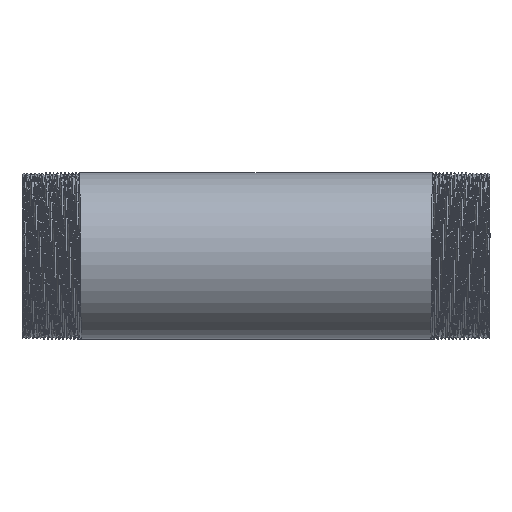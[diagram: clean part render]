
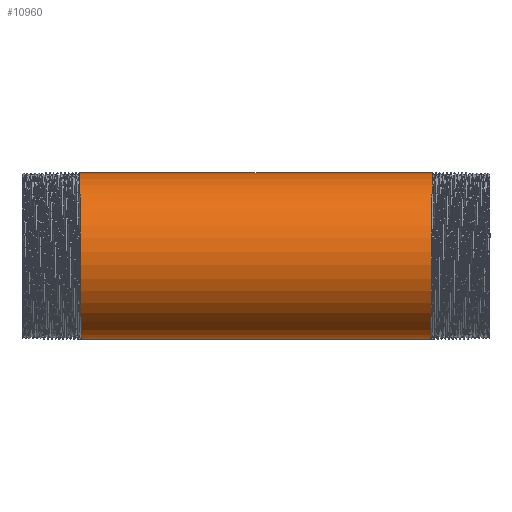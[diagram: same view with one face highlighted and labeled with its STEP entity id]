
A CAD part, front view. The second image highlights one B-rep face of the part: STEP entity #10960.
In plain terms, the highlighted cylindrical face has radius 44.45 mm (diameter 88.9 mm), a partial arc.
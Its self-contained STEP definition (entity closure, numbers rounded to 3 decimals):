
#87 = VERTEX_POINT ( 'NONE', #10110 ) ;
#517 =( BOUNDED_CURVE ( )  B_SPLINE_CURVE ( 2, ( #11140, #4610, #9711, #8379, #13741, #4936, #833, #4774, #10039, #15001, #16340 ),
 .UNSPECIFIED., .F., .F. ) 
 B_SPLINE_CURVE_WITH_KNOTS ( ( 3, 2, 2, 2, 2, 3 ),
 ( 0., 0.006, 0.011, 0.017, 0.022, 0.028 ),
 .UNSPECIFIED. ) 
 CURVE ( )  GEOMETRIC_REPRESENTATION_ITEM ( )  RATIONAL_B_SPLINE_CURVE ( ( 1., 0.951, 1., 0.951, 1., 0.951, 1., 0.951, 1., 0.951, 1. ) ) 
 REPRESENTATION_ITEM ( '' )  );
#730 = CARTESIAN_POINT ( 'NONE',  ( 94.25, 0., 44.45 ) ) ;
#833 = CARTESIAN_POINT ( 'NONE',  ( 93.85, -42.274, 13.736 ) ) ;
#897 = CARTESIAN_POINT ( 'NONE',  ( -93.95, -37.811, 27.472 ) ) ;
#1801 = EDGE_CURVE ( 'NONE', #6191, #87, #6192, .T. ) ;
#3420 = DIRECTION ( 'NONE',  ( -1., 0., 0. ) ) ;
#3426 = CARTESIAN_POINT ( 'NONE',  ( -93.75, -46.737, 0. ) ) ;
#4610 = CARTESIAN_POINT ( 'NONE',  ( 93.35, -14.443, -44.45 ) ) ;
#4619 = VECTOR ( 'NONE', #10739, 1000. ) ;
#4673 = CARTESIAN_POINT ( 'NONE',  ( -93.65, -42.274, -13.736 ) ) ;
#4774 = CARTESIAN_POINT ( 'NONE',  ( 93.95, -37.811, 27.472 ) ) ;
#4936 = CARTESIAN_POINT ( 'NONE',  ( 93.75, -46.737, 0. ) ) ;
#5237 = CARTESIAN_POINT ( 'NONE',  ( -94.25, 0., 44.45 ) ) ;
#5295 = ORIENTED_EDGE ( 'NONE', *, *, #13018, .T. ) ;
#5851 = CARTESIAN_POINT ( 'NONE',  ( -93.25, 0., -44.45 ) ) ;
#6067 = CARTESIAN_POINT ( 'NONE',  ( -149.494, 0., 0. ) ) ;
#6150 = DIRECTION ( 'NONE',  ( 0., 0., 1. ) ) ;
#6191 = VERTEX_POINT ( 'NONE', #12742 ) ;
#6192 = LINE ( 'NONE', #16158, #4619 ) ;
#7102 = CARTESIAN_POINT ( 'NONE',  ( -94.05, -26.127, 35.961 ) ) ;
#7230 = CYLINDRICAL_SURFACE ( 'NONE', #10351, 44.45 ) ;
#7434 = CARTESIAN_POINT ( 'NONE',  ( -94.15, -14.443, 44.45 ) ) ;
#7710 = EDGE_LOOP ( 'NONE', ( #10268, #5295, #11445, #10719 ) ) ;
#8109 =( BOUNDED_CURVE ( )  B_SPLINE_CURVE ( 2, ( #5851, #13720, #9857, #8605, #4673, #3426, #13556, #897, #7102, #7434, #9690 ),
 .UNSPECIFIED., .F., .F. ) 
 B_SPLINE_CURVE_WITH_KNOTS ( ( 3, 2, 2, 2, 2, 3 ),
 ( 0., 0.006, 0.011, 0.017, 0.022, 0.028 ),
 .UNSPECIFIED. ) 
 CURVE ( )  GEOMETRIC_REPRESENTATION_ITEM ( )  RATIONAL_B_SPLINE_CURVE ( ( 1., 0.951, 1., 0.951, 1., 0.951, 1., 0.951, 1., 0.951, 1. ) ) 
 REPRESENTATION_ITEM ( '' )  );
#8379 = CARTESIAN_POINT ( 'NONE',  ( 93.55, -37.811, -27.472 ) ) ;
#8570 = FACE_OUTER_BOUND ( 'NONE', #7710, .T. ) ;
#8605 = CARTESIAN_POINT ( 'NONE',  ( -93.55, -37.811, -27.472 ) ) ;
#9012 = VECTOR ( 'NONE', #3420, 1000. ) ;
#9690 = CARTESIAN_POINT ( 'NONE',  ( -94.25, 0., 44.45 ) ) ;
#9699 = VERTEX_POINT ( 'NONE', #5237 ) ;
#9711 = CARTESIAN_POINT ( 'NONE',  ( 93.45, -26.127, -35.961 ) ) ;
#9823 = DIRECTION ( 'NONE',  ( -1., 0., 0. ) ) ;
#9857 = CARTESIAN_POINT ( 'NONE',  ( -93.45, -26.127, -35.961 ) ) ;
#10039 = CARTESIAN_POINT ( 'NONE',  ( 94.05, -26.127, 35.961 ) ) ;
#10110 = CARTESIAN_POINT ( 'NONE',  ( -93.25, 0., -44.45 ) ) ;
#10268 = ORIENTED_EDGE ( 'NONE', *, *, #1801, .F. ) ;
#10351 = AXIS2_PLACEMENT_3D ( 'NONE', #6067, #9823, #6150 ) ;
#10719 = ORIENTED_EDGE ( 'NONE', *, *, #13432, .F. ) ;
#10739 = DIRECTION ( 'NONE',  ( -1., 0., 0. ) ) ;
#10960 = ADVANCED_FACE ( 'NONE', ( #8570 ), #7230, .T. ) ;
#11140 = CARTESIAN_POINT ( 'NONE',  ( 93.25, 0., -44.45 ) ) ;
#11445 = ORIENTED_EDGE ( 'NONE', *, *, #14971, .T. ) ;
#12453 = CARTESIAN_POINT ( 'NONE',  ( -149.494, 0., 44.45 ) ) ;
#12742 = CARTESIAN_POINT ( 'NONE',  ( 93.25, 0., -44.45 ) ) ;
#13018 = EDGE_CURVE ( 'NONE', #6191, #13239, #517, .T. ) ;
#13239 = VERTEX_POINT ( 'NONE', #730 ) ;
#13432 = EDGE_CURVE ( 'NONE', #87, #9699, #8109, .T. ) ;
#13556 = CARTESIAN_POINT ( 'NONE',  ( -93.85, -42.274, 13.736 ) ) ;
#13720 = CARTESIAN_POINT ( 'NONE',  ( -93.35, -14.443, -44.45 ) ) ;
#13741 = CARTESIAN_POINT ( 'NONE',  ( 93.65, -42.274, -13.736 ) ) ;
#14428 = LINE ( 'NONE', #12453, #9012 ) ;
#14971 = EDGE_CURVE ( 'NONE', #13239, #9699, #14428, .T. ) ;
#15001 = CARTESIAN_POINT ( 'NONE',  ( 94.15, -14.443, 44.45 ) ) ;
#16158 = CARTESIAN_POINT ( 'NONE',  ( -149.494, 0., -44.45 ) ) ;
#16340 = CARTESIAN_POINT ( 'NONE',  ( 94.25, 0., 44.45 ) ) ;
